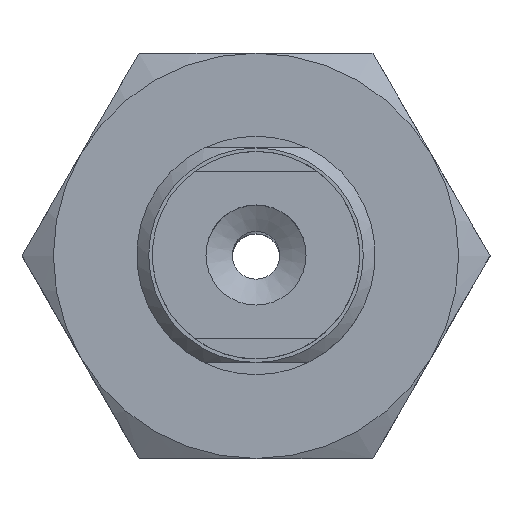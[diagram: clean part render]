
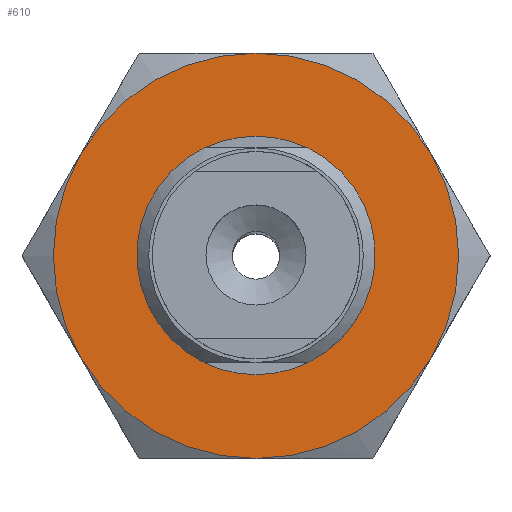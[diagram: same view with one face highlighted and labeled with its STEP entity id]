
A CAD part, top view. The second image highlights one B-rep face of the part: STEP entity #610.
In plain terms, the highlighted planar face has unit normal (0, 0, 1).
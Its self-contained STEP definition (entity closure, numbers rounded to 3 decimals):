
#610=ADVANCED_FACE('',(#834,#835),#836,.T.);
#834=FACE_BOUND('',#1241,.T.);
#835=FACE_OUTER_BOUND('',#1242,.T.);
#836=PLANE('',#1243);
#1241=EDGE_LOOP('',(#1808));
#1242=EDGE_LOOP('',(#1809,#1810,#1811,#1812,#1813,#1814));
#1243=AXIS2_PLACEMENT_3D('',#1815,#1816,#1817);
#1808=ORIENTED_EDGE('',*,*,#2632,.F.);
#1809=ORIENTED_EDGE('',*,*,#2633,.F.);
#1810=ORIENTED_EDGE('',*,*,#2626,.F.);
#1811=ORIENTED_EDGE('',*,*,#2602,.F.);
#1812=ORIENTED_EDGE('',*,*,#2605,.F.);
#1813=ORIENTED_EDGE('',*,*,#2634,.F.);
#1814=ORIENTED_EDGE('',*,*,#2635,.F.);
#1815=CARTESIAN_POINT('',(-9.815,-8.5,4.0));
#1816=DIRECTION('',(0.0,0.0,1.0));
#1817=DIRECTION('',(1.0,0.0,0.0));
#2602=EDGE_CURVE('',#2882,#2883,#2884,.T.);
#2605=EDGE_CURVE('',#2888,#2882,#2889,.T.);
#2626=EDGE_CURVE('',#2883,#2923,#2924,.T.);
#2632=EDGE_CURVE('',#2932,#2932,#2933,.T.);
#2633=EDGE_CURVE('',#2923,#2934,#2935,.T.);
#2634=EDGE_CURVE('',#2936,#2888,#2937,.T.);
#2635=EDGE_CURVE('',#2934,#2936,#2938,.T.);
#2882=VERTEX_POINT('',#3422);
#2883=VERTEX_POINT('',#3423);
#2884=CIRCLE('',#3424,8.5);
#2888=VERTEX_POINT('',#3436);
#2889=CIRCLE('',#3437,8.5);
#2923=VERTEX_POINT('',#3517);
#2924=CIRCLE('',#3518,8.5);
#2932=VERTEX_POINT('',#3543);
#2933=CIRCLE('',#3544,4.5);
#2934=VERTEX_POINT('',#3545);
#2935=CIRCLE('',#3546,8.5);
#2936=VERTEX_POINT('',#3547);
#2937=CIRCLE('',#3548,8.5);
#2938=CIRCLE('',#3549,8.5);
#3422=CARTESIAN_POINT('',(7.361,4.25,4.0));
#3423=CARTESIAN_POINT('',(7.361,-4.25,4.0));
#3424=AXIS2_PLACEMENT_3D('',#4030,#4031,#4032);
#3436=CARTESIAN_POINT('',(0.,8.5,4.0));
#3437=AXIS2_PLACEMENT_3D('',#4033,#4034,#4035);
#3517=CARTESIAN_POINT('',(0.,-8.5,4.0));
#3518=AXIS2_PLACEMENT_3D('',#4059,#4060,#4061);
#3543=CARTESIAN_POINT('',(0.0,-4.5,4.0));
#3544=AXIS2_PLACEMENT_3D('',#4063,#4064,#4065);
#3545=CARTESIAN_POINT('',(-7.361,-4.25,4.0));
#3546=AXIS2_PLACEMENT_3D('',#4066,#4067,#4068);
#3547=CARTESIAN_POINT('',(-7.361,4.25,4.0));
#3548=AXIS2_PLACEMENT_3D('',#4069,#4070,#4071);
#3549=AXIS2_PLACEMENT_3D('',#4072,#4073,#4074);
#4030=CARTESIAN_POINT('',(0.,0.,4.0));
#4031=DIRECTION('',(0.,0.,-1.0));
#4032=DIRECTION('',(0.866,0.5,0.));
#4033=CARTESIAN_POINT('',(0.,0.,4.0));
#4034=DIRECTION('',(0.,0.,-1.0));
#4035=DIRECTION('',(0.866,0.5,0.));
#4059=CARTESIAN_POINT('',(0.,0.,4.0));
#4060=DIRECTION('',(0.,0.,-1.0));
#4061=DIRECTION('',(0.866,0.5,0.));
#4063=CARTESIAN_POINT('',(0.0,0.0,4.0));
#4064=DIRECTION('',(0.0,0.,1.0));
#4065=DIRECTION('',(0.0,-1.0,0.));
#4066=CARTESIAN_POINT('',(0.,0.,4.0));
#4067=DIRECTION('',(0.,0.,-1.0));
#4068=DIRECTION('',(0.866,0.5,0.));
#4069=CARTESIAN_POINT('',(0.,0.,4.0));
#4070=DIRECTION('',(0.,0.,-1.0));
#4071=DIRECTION('',(0.866,0.5,0.));
#4072=CARTESIAN_POINT('',(0.,0.,4.0));
#4073=DIRECTION('',(0.,0.,-1.0));
#4074=DIRECTION('',(0.866,0.5,0.));
